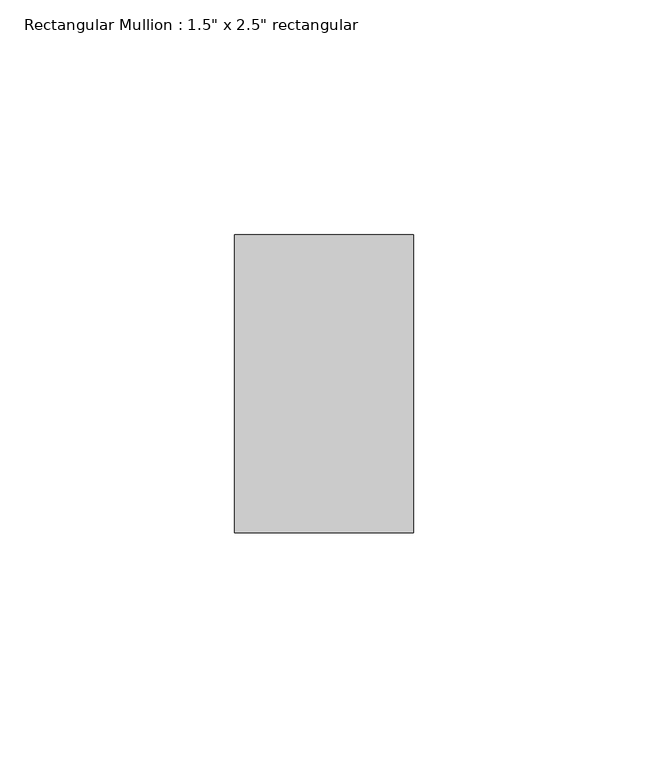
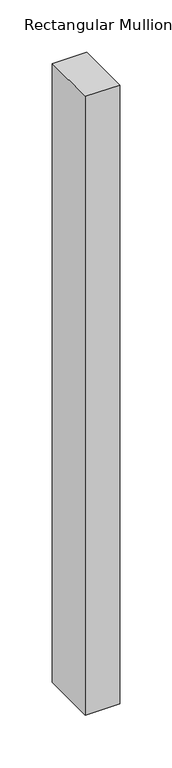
"""IFC4 building model written with IfcOpenShell, lengths in millimetres: member geometry."""

from ifc_helpers import new_model, si_unit, frame, origin, place, context, project, spatial, polyline, outline, extrude, source, transform, mapped, element, save


def member_b02eb1a0(model_context):
    return source(origin(), model_context, "Body", "SweptSolid", [
        extrude(outline(polyline([(19.05, 31.75), (19.05, -31.75), (-19.05, -31.75), (-19.05, 31.75), (19.05, 31.75)])), frame((0.0, 0.0, -724.8967257), z_axis=(0.0, 0.0, 1.0), x_axis=(1.0, 0.0, 0.0)), (0.0, 0.0, 1.0), 724.8967257),
    ])


if __name__ == "__main__":
    model = new_model("IFC4")
    model_context = context("Model", 3, world=origin())
    ifc_project = project(units=[si_unit("LENGTHUNIT", "METRE", prefix="MILLI")], contexts=[model_context])
    site = spatial("IfcSite", under=ifc_project)
    building = spatial("IfcBuilding", under=site)
    placement = place(None, origin())
    member_shape = member_b02eb1a0(model_context)
    element("IfcMember", 1, ObjectType="Rectangular Mullion : 1.5\" x 2.5\" rectangular", at=placement, inside=building, context=model_context, shape_type="MappedRepresentation", body=[
        mapped(member_shape, transform((0.0, 0.0, 0.0), x_axis=(1.0, 0.0, 0.0), y_axis=(0.0, 1.0, 0.0), z_axis=(0.0, 0.0, 1.0))),
    ])
    save(model, "model.ifc")
